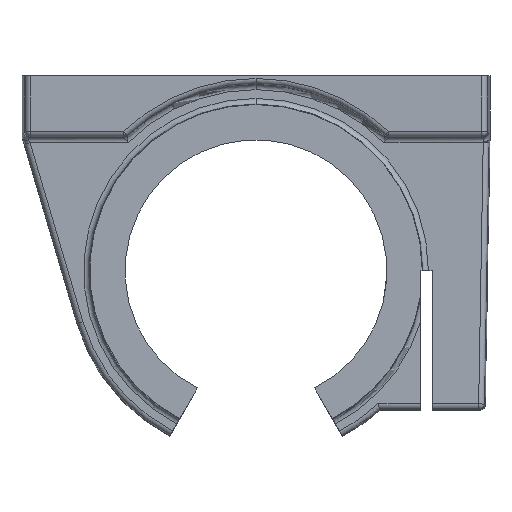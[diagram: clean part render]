
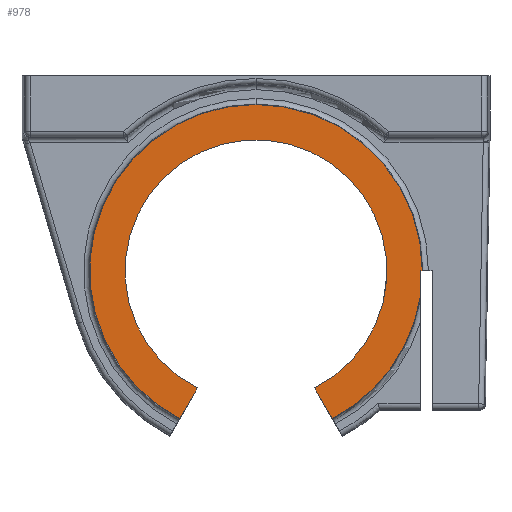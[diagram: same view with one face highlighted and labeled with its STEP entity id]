
A CAD part, front view. The second image highlights one B-rep face of the part: STEP entity #978.
In plain terms, the highlighted planar face has unit normal (0, -1, 0).
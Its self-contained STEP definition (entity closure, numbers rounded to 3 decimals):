
#65 = ORIENTED_EDGE ( 'NONE', *, *, #1001, .F. ) ;
#95 = AXIS2_PLACEMENT_3D ( 'NONE', #1321, #920, #616 ) ;
#115 = CARTESIAN_POINT ( 'NONE',  ( 10.5, -24., -52.524 ) ) ;
#129 = VERTEX_POINT ( 'NONE', #4004 ) ;
#171 = VECTOR ( 'NONE', #2337, 1000. ) ;
#315 = ORIENTED_EDGE ( 'NONE', *, *, #4743, .F. ) ;
#342 = VECTOR ( 'NONE', #3994, 1000. ) ;
#361 = CARTESIAN_POINT ( 'NONE',  ( 0., -24., -1.657 ) ) ;
#429 = EDGE_CURVE ( 'NONE', #129, #1822, #1758, .T. ) ;
#530 = DIRECTION ( 'NONE',  ( 0., 0., -1. ) ) ;
#616 = DIRECTION ( 'NONE',  ( 0., 0., -1. ) ) ;
#630 = EDGE_LOOP ( 'NONE', ( #315, #2270, #988, #3451, #900, #65, #2499, #3218 ) ) ;
#669 = DIRECTION ( 'NONE',  ( 0., 0., -1. ) ) ;
#776 = DIRECTION ( 'NONE',  ( 0., 1., 0. ) ) ;
#780 = EDGE_CURVE ( 'NONE', #1785, #2183, #1504, .T. ) ;
#882 = DIRECTION ( 'NONE',  ( 0., 0., -1. ) ) ;
#900 = ORIENTED_EDGE ( 'NONE', *, *, #2809, .T. ) ;
#920 = DIRECTION ( 'NONE',  ( 0., 1., 0. ) ) ;
#959 = VERTEX_POINT ( 'NONE', #2949 ) ;
#978 = ADVANCED_FACE ( 'NONE', ( #1055 ), #1126, .T. ) ;
#988 = ORIENTED_EDGE ( 'NONE', *, *, #429, .F. ) ;
#1001 = EDGE_CURVE ( 'NONE', #2183, #4676, #2272, .T. ) ;
#1046 = DIRECTION ( 'NONE',  ( 0., 1., 0. ) ) ;
#1055 = FACE_OUTER_BOUND ( 'NONE', #630, .T. ) ;
#1079 = DIRECTION ( 'NONE',  ( 0., 0., -1. ) ) ;
#1126 = PLANE ( 'NONE',  #3095 ) ;
#1154 = CARTESIAN_POINT ( 'NONE',  ( 29.495, -24., -31.5 ) ) ;
#1321 = CARTESIAN_POINT ( 'NONE',  ( 0., -24., -31.5 ) ) ;
#1421 = EDGE_CURVE ( 'NONE', #3694, #1785, #1491, .T. ) ;
#1428 = AXIS2_PLACEMENT_3D ( 'NONE', #3394, #776, #530 ) ;
#1491 = LINE ( 'NONE', #1823, #3667 ) ;
#1504 = CIRCLE ( 'NONE', #1428, 29.843 ) ;
#1758 = CIRCLE ( 'NONE', #3972, 29.843 ) ;
#1785 = VERTEX_POINT ( 'NONE', #4832 ) ;
#1813 = CARTESIAN_POINT ( 'NONE',  ( 13.676, -24., -58.025 ) ) ;
#1822 = VERTEX_POINT ( 'NONE', #361 ) ;
#1823 = CARTESIAN_POINT ( 'NONE',  ( 29.495, -24., -31.5 ) ) ;
#1879 = CARTESIAN_POINT ( 'NONE',  ( 0., -24., -31.5 ) ) ;
#1978 = EDGE_CURVE ( 'NONE', #959, #129, #4612, .T. ) ;
#2183 = VERTEX_POINT ( 'NONE', #1813 ) ;
#2270 = ORIENTED_EDGE ( 'NONE', *, *, #3925, .F. ) ;
#2272 = LINE ( 'NONE', #3779, #2309 ) ;
#2309 = VECTOR ( 'NONE', #2644, 1000. ) ;
#2337 = DIRECTION ( 'NONE',  ( -0.5, 0., -0.866 ) ) ;
#2499 = ORIENTED_EDGE ( 'NONE', *, *, #780, .F. ) ;
#2502 = CIRCLE ( 'NONE', #2814, 29.843 ) ;
#2644 = DIRECTION ( 'NONE',  ( -0.5, 0., 0.866 ) ) ;
#2658 = CARTESIAN_POINT ( 'NONE',  ( 1.229, -24., -32.209 ) ) ;
#2809 = EDGE_CURVE ( 'NONE', #959, #4676, #4223, .T. ) ;
#2814 = AXIS2_PLACEMENT_3D ( 'NONE', #3724, #1046, #669 ) ;
#2949 = CARTESIAN_POINT ( 'NONE',  ( -10.5, -24., -52.524 ) ) ;
#3095 = AXIS2_PLACEMENT_3D ( 'NONE', #1879, #3364, #1079 ) ;
#3207 = LINE ( 'NONE', #3888, #342 ) ;
#3218 = ORIENTED_EDGE ( 'NONE', *, *, #1421, .F. ) ;
#3364 = DIRECTION ( 'NONE',  ( 0., -1., 0. ) ) ;
#3394 = CARTESIAN_POINT ( 'NONE',  ( 0., -24., -31.5 ) ) ;
#3451 = ORIENTED_EDGE ( 'NONE', *, *, #1978, .F. ) ;
#3630 = CARTESIAN_POINT ( 'NONE',  ( 29.843, -24., -31.5 ) ) ;
#3667 = VECTOR ( 'NONE', #4883, 1000. ) ;
#3694 = VERTEX_POINT ( 'NONE', #1154 ) ;
#3724 = CARTESIAN_POINT ( 'NONE',  ( 0., -24., -31.5 ) ) ;
#3779 = CARTESIAN_POINT ( 'NONE',  ( -1.229, -24., -32.209 ) ) ;
#3888 = CARTESIAN_POINT ( 'NONE',  ( 0., -24., -31.5 ) ) ;
#3925 = EDGE_CURVE ( 'NONE', #1822, #4284, #2502, .T. ) ;
#3972 = AXIS2_PLACEMENT_3D ( 'NONE', #4663, #4292, #882 ) ;
#3994 = DIRECTION ( 'NONE',  ( -1., 0., 0. ) ) ;
#4004 = CARTESIAN_POINT ( 'NONE',  ( -13.676, -24., -58.025 ) ) ;
#4223 = CIRCLE ( 'NONE', #95, 23.5 ) ;
#4284 = VERTEX_POINT ( 'NONE', #3630 ) ;
#4292 = DIRECTION ( 'NONE',  ( 0., 1., 0. ) ) ;
#4612 = LINE ( 'NONE', #2658, #171 ) ;
#4663 = CARTESIAN_POINT ( 'NONE',  ( 0., -24., -31.5 ) ) ;
#4676 = VERTEX_POINT ( 'NONE', #115 ) ;
#4743 = EDGE_CURVE ( 'NONE', #4284, #3694, #3207, .T. ) ;
#4832 = CARTESIAN_POINT ( 'NONE',  ( 29.495, -24., -36.044 ) ) ;
#4883 = DIRECTION ( 'NONE',  ( 0., 0., -1. ) ) ;
